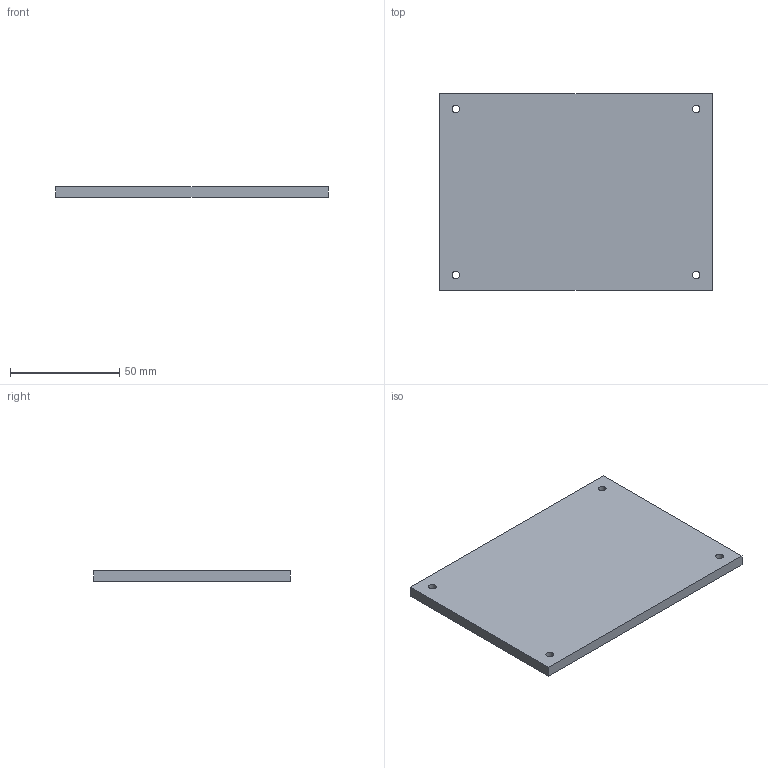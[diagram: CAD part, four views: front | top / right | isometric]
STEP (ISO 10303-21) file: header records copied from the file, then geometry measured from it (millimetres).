
FILE_DESCRIPTION(('Open CASCADE Model'),'2;1');
FILE_NAME('Open CASCADE Shape Model','2026-10-15T18:22:07',('Author'),( 'Open CASCADE'),'Open CASCADE STEP processor 7.9','Open CASCADE 7.9' ,'Unknown');
FILE_SCHEMA(('AUTOMOTIVE_DESIGN { 1 0 10303 214 1 1 1 1 }'));
Length unit declared in the file: millimetre
Products named in the file (1): Open CASCADE STEP translator 7.9 4
Bounding box: 125 x 90 x 5 mm (x, y, z)
Volume: 56057.6 mm3; surface area: 24792.9 mm2
Topology: 1 solids, 1 shells, 10 faces, 24 edges, 16 vertices
Faces by surface type: plane 6, cylinder 4
Full cylindrical faces by diameter (mm): 3.5 x4
Entity records: 634 total; most frequent: DIRECTION 102, CARTESIAN_POINT 99, LINE 56, VECTOR 56, ORIENTED_EDGE 48, PCURVE 48, DEFINITIONAL_REPRESENTATION 48, EDGE_CURVE 24
